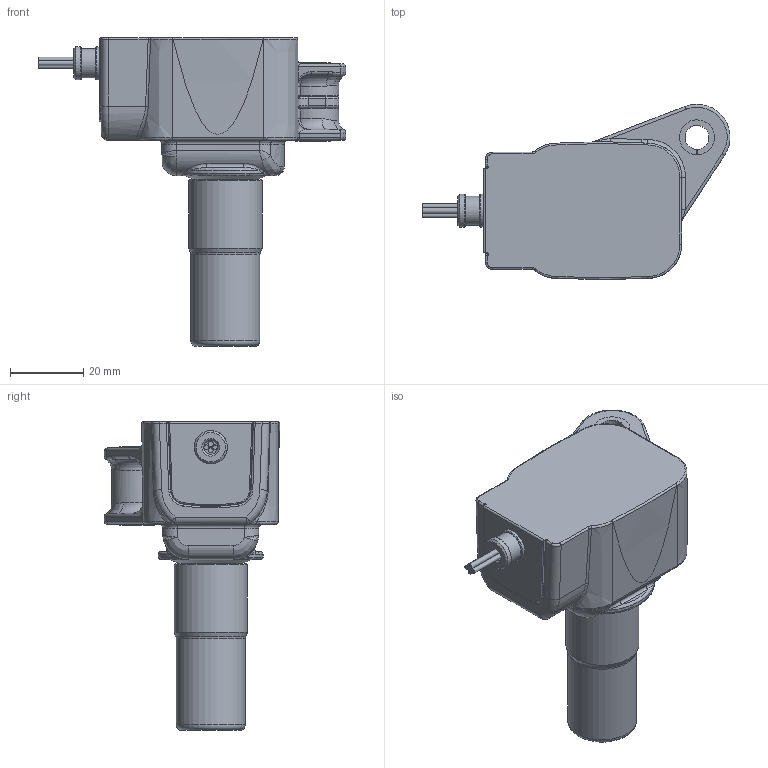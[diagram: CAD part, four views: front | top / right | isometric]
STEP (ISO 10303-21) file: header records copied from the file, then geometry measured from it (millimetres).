
FILE_DESCRIPTION(/* description */ (''),/* implementation_level */ '2;1');
FILE_NAME(/* name */ 'f02ua02430_01_001.stp',/* time_stamp */ '2016-07-04T17:01:06+02:00',/* author */ (''),/* organization */ (''),/* preprocessor_version */ 'ST-DEVELOPER v15',/* originating_system */ 'SIEMENS PLM Software NX 9.0',/* authorisation */ '');
FILE_SCHEMA (('AUTOMOTIVE_DESIGN { 1 0 10303 214 3 1 1 1 }'));
Length unit declared in the file: millimetre
Products named in the file (1): lhb20B5C7216s556
Bounding box: 83.82 x 47.79 x 84.1 mm (x, y, z)
Volume: 76301.9 mm3; surface area: 15520.1 mm2
Topology: 5 solids, 5 shells, 318 faces, 735 edges, 409 vertices
Faces by surface type: bspline 97, cylinder 93, plane 60, torus 42, cone 14, extrusion 9, sphere 3
Full cylindrical faces by diameter (mm): 1.3 x3, 1.5 x1, 3 x1, 3.8 x1, 4 x2, 6.5 x1, 8 x1, 9 x2, 18.8 x1, 20 x1
Entity records: 17090 total; most frequent: CARTESIAN_POINT 8731, ORIENTED_EDGE 1332, DIRECTION 1187, EDGE_CURVE 666, AXIS2_PLACEMENT_3D 495, VERTEX_POINT 400, EDGE_LOOP 362, ADVANCED_FACE 318
